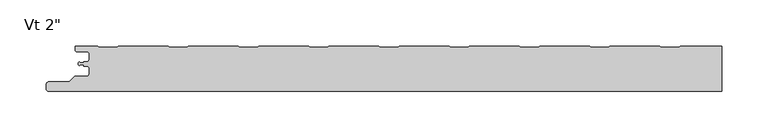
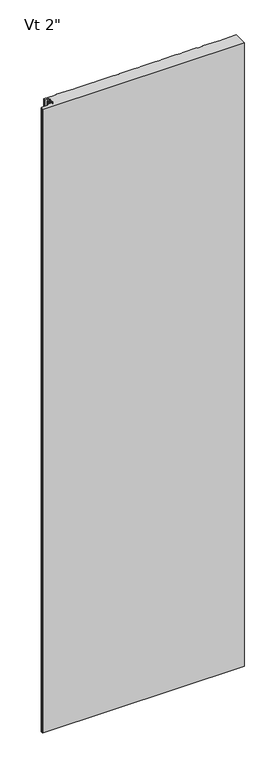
"""IFC4 building model written with IfcOpenShell, lengths in millimetres: plate geometry."""

from ifc_helpers import new_model, si_unit, frame, origin, place, context, project, spatial, polyline, circle_curve, source, transform, mapped, element, save
from ifc_brep_helpers import plane_surface, cylinder_surface, revolved_surface, advanced_brep


def plate_0e43e67b(model_context):
    return source(origin(), model_context, "Body", "AdvancedBrep", [
        advanced_brep(
        [(-347.9683, -22.4708793, 2400.0), (-346.767176, -21.3014045, 2400.0), (-343.0087826, -21.3014045, 2400.0), (-343.0087826, -22.6998834, 2400.0), (-340.3096715, -22.6998834, 2400.0), (-336.9596762, -26.0498787, 2400.0), (-336.9596762, -30.4498699, 2400.0), (-340.3096715, -33.7998652, 2400.0), (-352.1205606, -33.7998652, 2400.0), (-353.3226383, -34.2977821, 2400.0), (-358.8247094, -39.7998532, 2400.0), (-380.9198391, -39.7998532, 2400.0), (-383.5765707, -42.0184552, 2400.0), (-384.0125697, -47.0002761, 2400.0), (-381.4521175, -49.794601, 2400.0), (348.9999998, -49.8000043, 2400.0), (348.9999998, -1.0063486, 2400.0), (303.778944, -1.0063486, 2400.0), (302.3933111, -2.2065793, 2400.0), (283.0181448, -2.2065793, 2400.0), (281.6325118, -1.0063486, 2400.0), (227.5790964, -1.0063486, 2400.0), (226.1934635, -2.2065793, 2400.0), (206.8182972, -2.2065793, 2400.0), (205.4326642, -1.0063486, 2400.0), (151.3792488, -1.0063486, 2400.0), (149.9936159, -2.2065793, 2400.0), (130.6184496, -2.2065793, 2400.0), (129.2328166, -1.0063486, 2400.0), (75.1794012, -1.0063486, 2400.0), (73.7937683, -2.2065793, 2400.0), (54.418602, -2.2065793, 2400.0), (53.032969, -1.0063486, 2400.0), (-1.0204464, -1.0063486, 2400.0), (-2.4060793, -2.2065793, 2400.0), (-21.7812456, -2.2065793, 2400.0), (-23.1668786, -1.0063486, 2400.0), (-77.220294, -1.0063486, 2400.0), (-78.6059269, -2.2065793, 2400.0), (-97.9810932, -2.2065793, 2400.0), (-99.3667262, -1.0063486, 2400.0), (-153.4201416, -1.0063486, 2400.0), (-154.8057745, -2.2065793, 2400.0), (-174.1809408, -2.2065793, 2400.0), (-175.5665738, -1.0063486, 2400.0), (-229.6199892, -1.0063486, 2400.0), (-231.0056221, -2.2065793, 2400.0), (-250.3807884, -2.2065793, 2400.0), (-251.7664214, -1.0063486, 2400.0), (-305.8198368, -1.0063486, 2400.0), (-307.2054697, -2.2065793, 2400.0), (-326.580636, -2.2065793, 2400.0), (-327.966269, -1.0063486, 2400.0), (-352.4662504, -1.0063486, 2400.0), (-352.4662504, -5.2378875, 2400.0), (-350.6962562, -7.0078817, 2400.0), (-340.2762777, -7.0078817, 2400.0), (-336.9762818, -10.3078776, 2400.0), (-336.9762818, -14.7078688, 2400.0), (-340.2762775, -18.0078645, 2400.0), (-342.9684873, -18.0078645, 2400.0), (-342.9684873, -19.007859, 2400.0), (-346.968691, -19.007859, 2400.0), (-347.9686882, -18.0078677, 2400.0), (-348.9999998, -19.0391794, 2400.0), (-348.9999998, -21.4391794, 2400.0), (-347.9683, -22.4708793, 0.0), (-348.9999998, -21.4391794, 0.0), (-348.9999998, -19.0391794, 0.0), (-347.9686882, -18.0078677, 0.0), (-346.968691, -19.007859, 0.0), (-342.9684873, -19.007859, 0.0), (-342.9684873, -18.0078645, 0.0), (-340.2762775, -18.0078645, 0.0), (-336.9762818, -14.7078688, 0.0), (-336.9762818, -10.3078776, 0.0), (-340.2762777, -7.0078817, 0.0), (-350.6962562, -7.0078817, 0.0), (-352.4662504, -5.2378875, 0.0), (-352.4662504, -1.0063486, 0.0), (-327.966269, -1.0063486, 0.0), (-326.580636, -2.2065793, 0.0), (-307.2054697, -2.2065793, 0.0), (-305.8198368, -1.0063486, 0.0), (-251.7664214, -1.0063486, 0.0), (-250.3807884, -2.2065793, 0.0), (-231.0056221, -2.2065793, 0.0), (-229.6199892, -1.0063486, 0.0), (-175.5665738, -1.0063486, 0.0), (-174.1809408, -2.2065793, 0.0), (-154.8057745, -2.2065793, 0.0), (-153.4201416, -1.0063486, 0.0), (-99.3667262, -1.0063486, 0.0), (-97.9810932, -2.2065793, 0.0), (-78.6059269, -2.2065793, 0.0), (-77.220294, -1.0063486, 0.0), (-23.1668786, -1.0063486, 0.0), (-21.7812456, -2.2065793, 0.0), (-2.4060793, -2.2065793, 0.0), (-1.0204464, -1.0063486, 0.0), (53.032969, -1.0063486, 0.0), (54.418602, -2.2065793, 0.0), (73.7937683, -2.2065793, 0.0), (75.1794012, -1.0063486, 0.0), (129.2328166, -1.0063486, 0.0), (130.6184496, -2.2065793, 0.0), (149.9936159, -2.2065793, 0.0), (151.3792488, -1.0063486, 0.0), (205.4326642, -1.0063486, 0.0), (206.8182972, -2.2065793, 0.0), (226.1934635, -2.2065793, 0.0), (227.5790964, -1.0063486, 0.0), (281.6325118, -1.0063486, 0.0), (283.0181448, -2.2065793, 0.0), (302.3933111, -2.2065793, 0.0), (303.778944, -1.0063486, 0.0), (348.9999998, -1.0063486, 0.0), (348.9999998, -49.8000043, 0.0), (-381.4521175, -49.8000043, 0.0), (-384.0125697, -47.0002761, 0.0), (-383.5765707, -42.0184552, 0.0), (-380.9198391, -39.7998532, 0.0), (-358.8247094, -39.7998532, 0.0), (-353.3226383, -34.2977821, 0.0), (-352.1205606, -33.7998652, 0.0), (-340.3096715, -33.7998652, 0.0), (-336.9596762, -30.4498699, 0.0), (-336.9596762, -26.0498787, 0.0), (-340.3096715, -22.6998834, 0.0), (-343.0087826, -22.6998834, 0.0), (-343.0087826, -21.3014045, 0.0), (-346.767176, -21.3014045, 0.0)],
        [
            (0, 1, circle_curve(frame((-346.7686906, -22.5014012, 2400.0), z_axis=(0.0, 0.0, -1.0), x_axis=(-1.0, 0.0, 0.0)), 1.1999976)),
            (1, 2),
            (2, 3),
            (3, 4),
            (4, 5, circle_curve(frame((-340.3096715, -26.0498787, 2400.0), z_axis=(0.0, 0.0, -1.0), x_axis=(-1.0, 0.0, 0.0)), 3.3499953)),
            (5, 6),
            (6, 7, circle_curve(frame((-340.3096715, -30.4498699, 2400.0), z_axis=(0.0, 0.0, -1.0), x_axis=(-1.0, 0.0, 0.0)), 3.3499953)),
            (7, 8),
            (8, 9, circle_curve(frame((-352.1205606, -35.4998598, 2400.0), z_axis=(0.0, 0.0, 1.0), x_axis=(-1.0, 0.0, 0.0)), 1.6999946)),
            (9, 10),
            (10, 11),
            (11, 12, circle_curve(frame((-380.9198391, -42.4998458, 2400.0), z_axis=(0.0, 0.0, 1.0), x_axis=(-1.0, 0.0, 0.0)), 2.6999926)),
            (12, 13),
            (13, 14, circle_curve(frame((-381.4521175, -47.2243617, 2400.0), z_axis=(0.0, 0.0, 1.0), x_axis=(-1.0, 0.0, 0.0)), 2.5702393)),
            (14, 15),
            (15, 16),
            (16, 17),
            (17, 18),
            (18, 19),
            (19, 20),
            (20, 21),
            (21, 22),
            (22, 23),
            (23, 24),
            (24, 25),
            (25, 26),
            (26, 27),
            (27, 28),
            (28, 29),
            (29, 30),
            (30, 31),
            (31, 32),
            (32, 33),
            (33, 34),
            (34, 35),
            (35, 36),
            (36, 37),
            (37, 38),
            (38, 39),
            (39, 40),
            (40, 41),
            (41, 42),
            (42, 43),
            (43, 44),
            (44, 45),
            (45, 46),
            (46, 47),
            (47, 48),
            (48, 49),
            (49, 50),
            (50, 51),
            (51, 52),
            (52, 53),
            (53, 54),
            (54, 55, circle_curve(frame((-350.6962562, -5.2378875, 2400.0), z_axis=(0.0, 0.0, 1.0), x_axis=(-1.0, 0.0, 0.0)), 1.7699942)),
            (55, 56),
            (56, 57, circle_curve(frame((-340.2762777, -10.3078776, 2400.0), z_axis=(0.0, 0.0, -1.0), x_axis=(-1.0, 0.0, 0.0)), 3.2999959)),
            (57, 58),
            (58, 59, circle_curve(frame((-340.2762775, -14.7078688, 2400.0), z_axis=(0.0, 0.0, -1.0), x_axis=(-1.0, 0.0, 0.0)), 3.2999957)),
            (59, 60),
            (60, 61),
            (61, 62),
            (62, 63, circle_curve(frame((-346.968691, -18.0078618, 2400.0), z_axis=(0.0, 0.0, -1.0), x_axis=(-1.0, 0.0, 0.0)), 0.9999972)),
            (63, 64),
            (64, 65),
            (65, 0),
            (66, 67),
            (67, 68),
            (68, 69),
            (69, 70, circle_curve(frame((-346.968691, -18.0078618, 0.0), z_axis=(0.0, 0.0, 1.0), x_axis=(-1.0, 0.0, 0.0)), 0.9999972)),
            (70, 71),
            (71, 72),
            (72, 73),
            (73, 74, circle_curve(frame((-340.2762775, -14.7078688, 0.0), z_axis=(0.0, 0.0, 1.0), x_axis=(-1.0, 0.0, 0.0)), 3.2999957)),
            (74, 75),
            (75, 76, circle_curve(frame((-340.2762777, -10.3078776, 0.0), z_axis=(0.0, 0.0, 1.0), x_axis=(-1.0, 0.0, 0.0)), 3.2999959)),
            (76, 77),
            (77, 78, circle_curve(frame((-350.6962562, -5.2378875, 0.0), z_axis=(0.0, 0.0, -1.0), x_axis=(-1.0, 0.0, 0.0)), 1.7699942)),
            (78, 79),
            (79, 80),
            (80, 81),
            (81, 82),
            (82, 83),
            (83, 84),
            (84, 85),
            (85, 86),
            (86, 87),
            (87, 88),
            (88, 89),
            (89, 90),
            (90, 91),
            (91, 92),
            (92, 93),
            (93, 94),
            (94, 95),
            (95, 96),
            (96, 97),
            (97, 98),
            (98, 99),
            (99, 100),
            (100, 101),
            (101, 102),
            (102, 103),
            (103, 104),
            (104, 105),
            (105, 106),
            (106, 107),
            (107, 108),
            (108, 109),
            (109, 110),
            (110, 111),
            (111, 112),
            (112, 113),
            (113, 114),
            (114, 115),
            (115, 116),
            (116, 117),
            (117, 118),
            (118, 119, circle_curve(frame((-381.4521175, -47.2243617, 0.0), z_axis=(0.0, 0.0, -1.0), x_axis=(-1.0, 0.0, 0.0)), 2.5702393)),
            (119, 120),
            (120, 121, circle_curve(frame((-380.9198391, -42.4998458, 0.0), z_axis=(0.0, 0.0, -1.0), x_axis=(-1.0, 0.0, 0.0)), 2.6999926)),
            (121, 122),
            (122, 123),
            (123, 124, circle_curve(frame((-352.1205606, -35.4998598, 0.0), z_axis=(0.0, 0.0, -1.0), x_axis=(-1.0, 0.0, 0.0)), 1.6999946)),
            (124, 125),
            (125, 126, circle_curve(frame((-340.3096715, -30.4498699, 0.0), z_axis=(0.0, 0.0, 1.0), x_axis=(-1.0, 0.0, 0.0)), 3.3499953)),
            (126, 127),
            (127, 128, circle_curve(frame((-340.3096715, -26.0498787, 0.0), z_axis=(0.0, 0.0, 1.0), x_axis=(-1.0, 0.0, 0.0)), 3.3499953)),
            (128, 129),
            (129, 130),
            (130, 131),
            (131, 66, circle_curve(frame((-346.7686906, -22.5014012, 0.0), z_axis=(0.0, 0.0, 1.0), x_axis=(-1.0, 0.0, 0.0)), 1.1999976)),
            (15, 117),
            (116, 16),
            (65, 67),
            (66, 0),
            (64, 68),
            (63, 69),
            (62, 70),
            (61, 71),
            (60, 72),
            (59, 73),
            (58, 74),
            (57, 75),
            (56, 76),
            (55, 77),
            (54, 78),
            (53, 79),
            (14, 118),
            (13, 119),
            (12, 120),
            (11, 121),
            (10, 122),
            (9, 123),
            (8, 124),
            (7, 125),
            (6, 126),
            (5, 127),
            (4, 128),
            (3, 129),
            (2, 130),
            (1, 131),
            (52, 80),
            (51, 81),
            (50, 82),
            (49, 83),
            (48, 84),
            (47, 85),
            (46, 86),
            (45, 87),
            (44, 88),
            (43, 89),
            (42, 90),
            (41, 91),
            (40, 92),
            (39, 93),
            (38, 94),
            (37, 95),
            (36, 96),
            (35, 97),
            (34, 98),
            (33, 99),
            (32, 100),
            (31, 101),
            (30, 102),
            (29, 103),
            (28, 104),
            (27, 105),
            (26, 106),
            (25, 107),
            (24, 108),
            (23, 109),
            (22, 110),
            (21, 111),
            (20, 112),
            (19, 113),
            (18, 114),
            (17, 115),
        ],
        [
            plane_surface(frame((32.0000002, -49.8000043, 2400.0), z_axis=(0.0, 0.0, 1.0), x_axis=(0.0, -1.0, 0.0))),
            plane_surface(frame((32.0000002, -49.8000043, 0.0), z_axis=(0.0, 0.0, -1.0), x_axis=(0.0, -1.0, 0.0))),
            plane_surface(frame((348.9999998, -60.8000043, 2400.0), z_axis=(1.0, 0.0, 0.0), x_axis=(0.0, 0.0, -1.0))),
            plane_surface(frame((-347.9683, -22.4708793, 2400.0), z_axis=(-0.7071067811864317, -0.7071067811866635, 0.0), x_axis=(0.0, 0.0, -1.0))),
            plane_surface(frame((-348.9999998, -21.4391794, 2400.0), z_axis=(-1.0, 0.0, 0.0), x_axis=(0.0, 0.0, -1.0))),
            plane_surface(frame((-348.9999998, -19.0391794, 2400.0), z_axis=(-0.7071067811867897, 0.7071067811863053, 0.0), x_axis=(0.0, 0.0, -1.0))),
            revolved_surface(polyline([(-347.9686882, -18.0078618, 0.0), (-347.9686882, -18.0078618, 2400.0)]), (-346.968691, -18.0078618, 2400.0), (0.0, 0.0, -1.0)),
            plane_surface(frame((-346.968691, -19.007859, 2400.0), z_axis=(0.0, 1.0, 0.0), x_axis=(0.0, 0.0, -1.0))),
            plane_surface(frame((-342.9684873, -19.007859, 2400.0), z_axis=(-1.0, 0.0, 0.0), x_axis=(0.0, 0.0, -1.0))),
            plane_surface(frame((-342.9684873, -18.0078645, 2400.0), z_axis=(0.0, 1.0, 0.0), x_axis=(0.0, 0.0, -1.0))),
            revolved_surface(polyline([(-343.5762732, -14.7078688, 0.0), (-343.5762732, -14.7078688, 2400.0)]), (-340.2762775, -14.7078688, 2400.0), (0.0, 0.0, -1.0)),
            plane_surface(frame((-336.9762818, -14.7078688, 2400.0), z_axis=(-1.0, 0.0, 0.0), x_axis=(0.0, 0.0, -1.0))),
            revolved_surface(polyline([(-343.5762736, -10.3078776, 0.0), (-343.5762736, -10.3078776, 2400.0)]), (-340.2762777, -10.3078776, 2400.0), (0.0, 0.0, -1.0)),
            plane_surface(frame((-340.2762777, -7.0078817, 2400.0), z_axis=(0.0, -1.0, 0.0), x_axis=(0.0, 0.0, -1.0))),
            cylinder_surface(frame((-350.6962562, -5.2378875, 2400.0), z_axis=(0.0, 0.0, 1.0), x_axis=(-1.0, 0.0, 0.0)), 1.7699942),
            plane_surface(frame((-352.4662504, -5.2378875, 2400.0), z_axis=(-1.0, 0.0, 0.0), x_axis=(0.0, 0.0, -1.0))),
            plane_surface(frame((364.5156221, -49.8000043, 2400.0), z_axis=(0.0, -1.0, 0.0), x_axis=(0.0, 0.0, -1.0))),
            cylinder_surface(frame((-381.4521175, -47.2243617, 2400.0), z_axis=(0.0, 0.0, 1.0), x_axis=(-1.0, 0.0, 0.0)), 2.5702393),
            plane_surface(frame((-384.0125697, -47.0002761, 2400.0), z_axis=(-0.9961921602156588, 0.0871847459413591, 0.0), x_axis=(0.0, 0.0, -1.0))),
            cylinder_surface(frame((-380.9198391, -42.4998458, 2400.0), z_axis=(0.0, 0.0, 1.0), x_axis=(-1.0, 0.0, 0.0)), 2.6999926),
            plane_surface(frame((-380.9198391, -39.7998532, 2400.0), z_axis=(0.0, 1.0, 0.0), x_axis=(0.0, 0.0, -1.0))),
            plane_surface(frame((-358.8247094, -39.7998532, 2400.0), z_axis=(-0.7071067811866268, 0.7071067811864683, 0.0), x_axis=(0.0, 0.0, -1.0))),
            cylinder_surface(frame((-352.1205606, -35.4998598, 2400.0), z_axis=(0.0, 0.0, 1.0), x_axis=(-1.0, 0.0, 0.0)), 1.6999946),
            plane_surface(frame((-352.1205606, -33.7998652, 2400.0), z_axis=(0.0, 1.0, 0.0), x_axis=(0.0, 0.0, -1.0))),
            revolved_surface(polyline([(-343.65966679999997, -30.4498699, 0.0), (-343.65966679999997, -30.4498699, 2400.0)]), (-340.3096715, -30.4498699, 2400.0), (0.0, 0.0, -1.0)),
            plane_surface(frame((-336.9596762, -30.4498699, 2400.0), z_axis=(-1.0, 0.0, 0.0), x_axis=(0.0, 0.0, -1.0))),
            revolved_surface(polyline([(-343.65966679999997, -26.0498787, 0.0), (-343.65966679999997, -26.0498787, 2400.0)]), (-340.3096715, -26.0498787, 2400.0), (0.0, 0.0, -1.0)),
            plane_surface(frame((-340.3096715, -22.6998834, 2400.0), z_axis=(0.0, -1.0, 0.0), x_axis=(0.0, 0.0, -1.0))),
            plane_surface(frame((-343.0087826, -22.6998834, 2400.0), z_axis=(-1.0, 0.0, 0.0), x_axis=(0.0, 0.0, -1.0))),
            plane_surface(frame((-343.0087826, -21.3014045, 2400.0), z_axis=(0.0, -1.0, 0.0), x_axis=(0.0, 0.0, -1.0))),
            revolved_surface(polyline([(-347.96868820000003, -22.5014012, 0.0), (-347.96868820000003, -22.5014012, 2400.0)]), (-346.7686906, -22.5014012, 2400.0), (0.0, 0.0, -1.0)),
            plane_surface(frame((-352.4662504, -1.0063486, 2400.0), z_axis=(0.0, 1.0, 0.0), x_axis=(0.0, 0.0, -1.0))),
            plane_surface(frame((-327.966269, -1.0063486, 2400.0), z_axis=(0.6547276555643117, 0.7558648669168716, 0.0), x_axis=(0.0, 0.0, -1.0))),
            plane_surface(frame((-326.580636, -2.2065793, 2400.0), z_axis=(0.0, 1.0, 0.0), x_axis=(0.0, 0.0, -1.0))),
            plane_surface(frame((-307.2054697, -2.2065793, 2400.0), z_axis=(-0.6547276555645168, 0.755864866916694, 0.0), x_axis=(0.0, 0.0, -1.0))),
            plane_surface(frame((-305.8198368, -1.0063486, 2400.0), z_axis=(0.0, 1.0, 0.0), x_axis=(0.0, 0.0, -1.0))),
            plane_surface(frame((-251.7664214, -1.0063486, 2400.0), z_axis=(0.6547276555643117, 0.7558648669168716, 0.0), x_axis=(0.0, 0.0, -1.0))),
            plane_surface(frame((-250.3807884, -2.2065793, 2400.0), z_axis=(0.0, 1.0, 0.0), x_axis=(0.0, 0.0, -1.0))),
            plane_surface(frame((-231.0056221, -2.2065793, 2400.0), z_axis=(-0.6547276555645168, 0.755864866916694, 0.0), x_axis=(0.0, 0.0, -1.0))),
            plane_surface(frame((-229.6199892, -1.0063486, 2400.0), z_axis=(0.0, 1.0, 0.0), x_axis=(0.0, 0.0, -1.0))),
            plane_surface(frame((-175.5665738, -1.0063486, 2400.0), z_axis=(0.654727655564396, 0.7558648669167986, 0.0), x_axis=(0.0, 0.0, -1.0))),
            plane_surface(frame((-174.1809408, -2.2065793, 2400.0), z_axis=(0.0, 1.0, 0.0), x_axis=(0.0, 0.0, -1.0))),
            plane_surface(frame((-154.8057745, -2.2065793, 2400.0), z_axis=(-0.6547276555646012, 0.7558648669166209, 0.0), x_axis=(0.0, 0.0, -1.0))),
            plane_surface(frame((-153.4201416, -1.0063486, 2400.0), z_axis=(0.0, 1.0, 0.0), x_axis=(0.0, 0.0, -1.0))),
            plane_surface(frame((-99.3667262, -1.0063486, 2400.0), z_axis=(0.6547276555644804, 0.7558648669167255, 0.0), x_axis=(0.0, 0.0, -1.0))),
            plane_surface(frame((-97.9810932, -2.2065793, 2400.0), z_axis=(0.0, 1.0, 0.0), x_axis=(0.0, 0.0, -1.0))),
            plane_surface(frame((-78.6059269, -2.2065793, 2400.0), z_axis=(-0.65472765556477, 0.7558648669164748, 0.0), x_axis=(0.0, 0.0, -1.0))),
            plane_surface(frame((-77.220294, -1.0063486, 2400.0), z_axis=(0.0, 1.0, 0.0), x_axis=(0.0, 0.0, -1.0))),
            plane_surface(frame((-23.1668786, -1.0063486, 2400.0), z_axis=(0.6547276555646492, 0.7558648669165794, 0.0), x_axis=(0.0, 0.0, -1.0))),
            plane_surface(frame((-21.7812456, -2.2065793, 2400.0), z_axis=(0.0, 1.0, 0.0), x_axis=(0.0, 0.0, -1.0))),
            plane_surface(frame((-2.4060793, -2.2065793, 2400.0), z_axis=(-0.65472765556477, 0.7558648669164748, 0.0), x_axis=(0.0, 0.0, -1.0))),
            plane_surface(frame((-1.0204464, -1.0063486, 2400.0), z_axis=(0.0, 1.0, 0.0), x_axis=(0.0, 0.0, -1.0))),
            plane_surface(frame((53.032969, -1.0063486, 2400.0), z_axis=(0.6547276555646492, 0.7558648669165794, 0.0), x_axis=(0.0, 0.0, -1.0))),
            plane_surface(frame((54.418602, -2.2065793, 2400.0), z_axis=(0.0, 1.0, 0.0), x_axis=(0.0, 0.0, -1.0))),
            plane_surface(frame((73.7937683, -2.2065793, 2400.0), z_axis=(-0.6547276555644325, 0.755864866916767, 0.0), x_axis=(0.0, 0.0, -1.0))),
            plane_surface(frame((75.1794012, -1.0063486, 2400.0), z_axis=(0.0, 1.0, 0.0), x_axis=(0.0, 0.0, -1.0))),
            plane_surface(frame((129.2328166, -1.0063486, 2400.0), z_axis=(0.6547276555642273, 0.7558648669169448, 0.0), x_axis=(0.0, 0.0, -1.0))),
            plane_surface(frame((130.6184496, -2.2065793, 2400.0), z_axis=(0.0, 1.0, 0.0), x_axis=(0.0, 0.0, -1.0))),
            plane_surface(frame((149.9936159, -2.2065793, 2400.0), z_axis=(-0.6547276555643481, 0.7558648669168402, 0.0), x_axis=(0.0, 0.0, -1.0))),
            plane_surface(frame((151.3792488, -1.0063486, 2400.0), z_axis=(0.0, 1.0, 0.0), x_axis=(0.0, 0.0, -1.0))),
            plane_surface(frame((205.4326642, -1.0063486, 2400.0), z_axis=(0.6547276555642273, 0.7558648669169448, 0.0), x_axis=(0.0, 0.0, -1.0))),
            plane_surface(frame((206.8182972, -2.2065793, 2400.0), z_axis=(0.0, 1.0, 0.0), x_axis=(0.0, 0.0, -1.0))),
            plane_surface(frame((226.1934635, -2.2065793, 2400.0), z_axis=(-0.6547276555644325, 0.755864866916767, 0.0), x_axis=(0.0, 0.0, -1.0))),
            plane_surface(frame((227.5790964, -1.0063486, 2400.0), z_axis=(0.0, 1.0, 0.0), x_axis=(0.0, 0.0, -1.0))),
            plane_surface(frame((281.6325118, -1.0063486, 2400.0), z_axis=(0.6547276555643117, 0.7558648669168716, 0.0), x_axis=(0.0, 0.0, -1.0))),
            plane_surface(frame((283.0181448, -2.2065793, 2400.0), z_axis=(0.0, 1.0, 0.0), x_axis=(0.0, 0.0, -1.0))),
            plane_surface(frame((302.3933111, -2.2065793, 2400.0), z_axis=(-0.6547276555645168, 0.755864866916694, 0.0), x_axis=(0.0, 0.0, -1.0))),
            plane_surface(frame((303.778944, -1.0063486, 2400.0), z_axis=(0.0, 1.0, 0.0), x_axis=(0.0, 0.0, -1.0))),
        ],
        [
            (0, [[1, 2, 3, 4, 5, 6, 7, 8, 9, 10, 11, 12, 13, 14, 15, 16, 17, 18, 19, 20, 21, 22, 23, 24, 25, 26, 27, 28, 29, 30, 31, 32, 33, 34, 35, 36, 37, 38, 39, 40, 41, 42, 43, 44, 45, 46, 47, 48, 49, 50, 51, 52, 53, 54, 55, 56, 57, 58, 59, 60, 61, 62, 63, 64, 65, 66]]),
            (1, [[67, 68, 69, 70, 71, 72, 73, 74, 75, 76, 77, 78, 79, 80, 81, 82, 83, 84, 85, 86, 87, 88, 89, 90, 91, 92, 93, 94, 95, 96, 97, 98, 99, 100, 101, 102, 103, 104, 105, 106, 107, 108, 109, 110, 111, 112, 113, 114, 115, 116, 117, 118, 119, 120, 121, 122, 123, 124, 125, 126, 127, 128, 129, 130, 131, 132]]),
            (2, [[133, -117, 134, -16]]),
            (3, [[135, -67, 136, -66]]),
            (4, [[137, -68, -135, -65]]),
            (5, [[138, -69, -137, -64]]),
            (6, [[139, -70, -138, -63]]),
            (7, [[140, -71, -139, -62]]),
            (8, [[141, -72, -140, -61]]),
            (9, [[142, -73, -141, -60]]),
            (10, [[143, -74, -142, -59]]),
            (11, [[144, -75, -143, -58]]),
            (12, [[145, -76, -144, -57]]),
            (13, [[146, -77, -145, -56]]),
            (14, [[147, -78, -146, -55]]),
            (15, [[148, -79, -147, -54]]),
            (16, [[-118, -133, -15, 149]]),
            (17, [[150, -119, -149, -14]]),
            (18, [[151, -120, -150, -13]]),
            (19, [[152, -121, -151, -12]]),
            (20, [[153, -122, -152, -11]]),
            (21, [[154, -123, -153, -10]]),
            (22, [[155, -124, -154, -9]]),
            (23, [[156, -125, -155, -8]]),
            (24, [[157, -126, -156, -7]]),
            (25, [[158, -127, -157, -6]]),
            (26, [[159, -128, -158, -5]]),
            (27, [[160, -129, -159, -4]]),
            (28, [[161, -130, -160, -3]]),
            (29, [[162, -131, -161, -2]]),
            (30, [[-136, -132, -162, -1]]),
            (31, [[163, -80, -148, -53]]),
            (32, [[164, -81, -163, -52]]),
            (33, [[165, -82, -164, -51]]),
            (34, [[166, -83, -165, -50]]),
            (35, [[167, -84, -166, -49]]),
            (36, [[168, -85, -167, -48]]),
            (37, [[169, -86, -168, -47]]),
            (38, [[170, -87, -169, -46]]),
            (39, [[171, -88, -170, -45]]),
            (40, [[172, -89, -171, -44]]),
            (41, [[173, -90, -172, -43]]),
            (42, [[174, -91, -173, -42]]),
            (43, [[175, -92, -174, -41]]),
            (44, [[176, -93, -175, -40]]),
            (45, [[177, -94, -176, -39]]),
            (46, [[178, -95, -177, -38]]),
            (47, [[179, -96, -178, -37]]),
            (48, [[180, -97, -179, -36]]),
            (49, [[181, -98, -180, -35]]),
            (50, [[182, -99, -181, -34]]),
            (51, [[183, -100, -182, -33]]),
            (52, [[184, -101, -183, -32]]),
            (53, [[185, -102, -184, -31]]),
            (54, [[186, -103, -185, -30]]),
            (55, [[187, -104, -186, -29]]),
            (56, [[188, -105, -187, -28]]),
            (57, [[189, -106, -188, -27]]),
            (58, [[190, -107, -189, -26]]),
            (59, [[191, -108, -190, -25]]),
            (60, [[192, -109, -191, -24]]),
            (61, [[193, -110, -192, -23]]),
            (62, [[194, -111, -193, -22]]),
            (63, [[195, -112, -194, -21]]),
            (64, [[196, -113, -195, -20]]),
            (65, [[197, -114, -196, -19]]),
            (66, [[198, -115, -197, -18]]),
            (67, [[-17, -134, -116, -198]]),
        ],
    ),
    ])


if __name__ == "__main__":
    model = new_model("IFC4")
    model_context = context("Model", 3, world=origin())
    ifc_project = project(units=[si_unit("LENGTHUNIT", "METRE", prefix="MILLI")], contexts=[model_context])
    site = spatial("IfcSite", under=ifc_project)
    building = spatial("IfcBuilding", under=site)
    placement = place(None, origin())
    plate_shape = plate_0e43e67b(model_context)
    element("IfcPlate", 1, ObjectType="KIP-30-Karrier-KP-R19-CP-Vt-FL3-8_SL : Vt 2\"", at=placement, inside=building, context=model_context, shape_type="MappedRepresentation", body=[
        mapped(plate_shape, transform((0.0, 0.0, 0.0), x_axis=(1.0, 0.0, 0.0), y_axis=(0.0, 1.0, 0.0), z_axis=(0.0, 0.0, 1.0))),
    ])
    save(model, "model.ifc")
